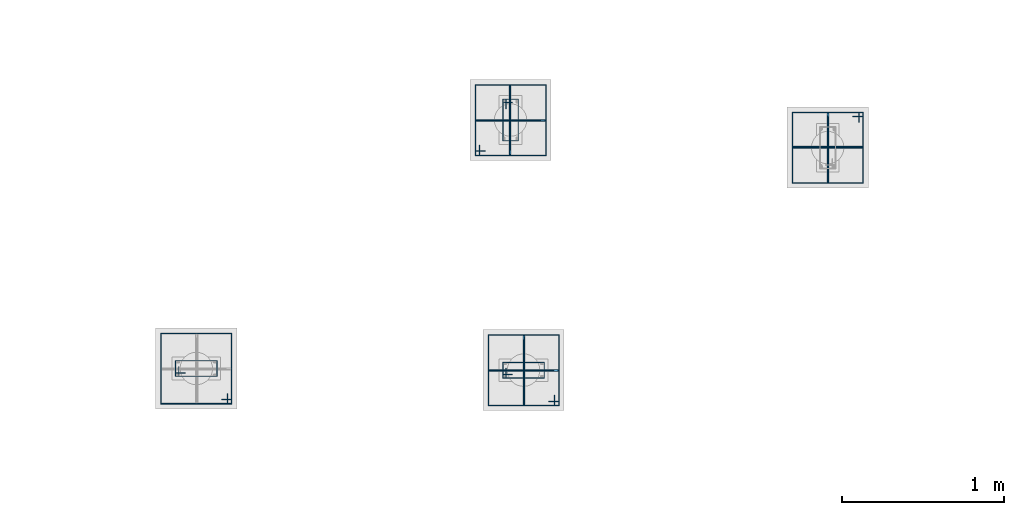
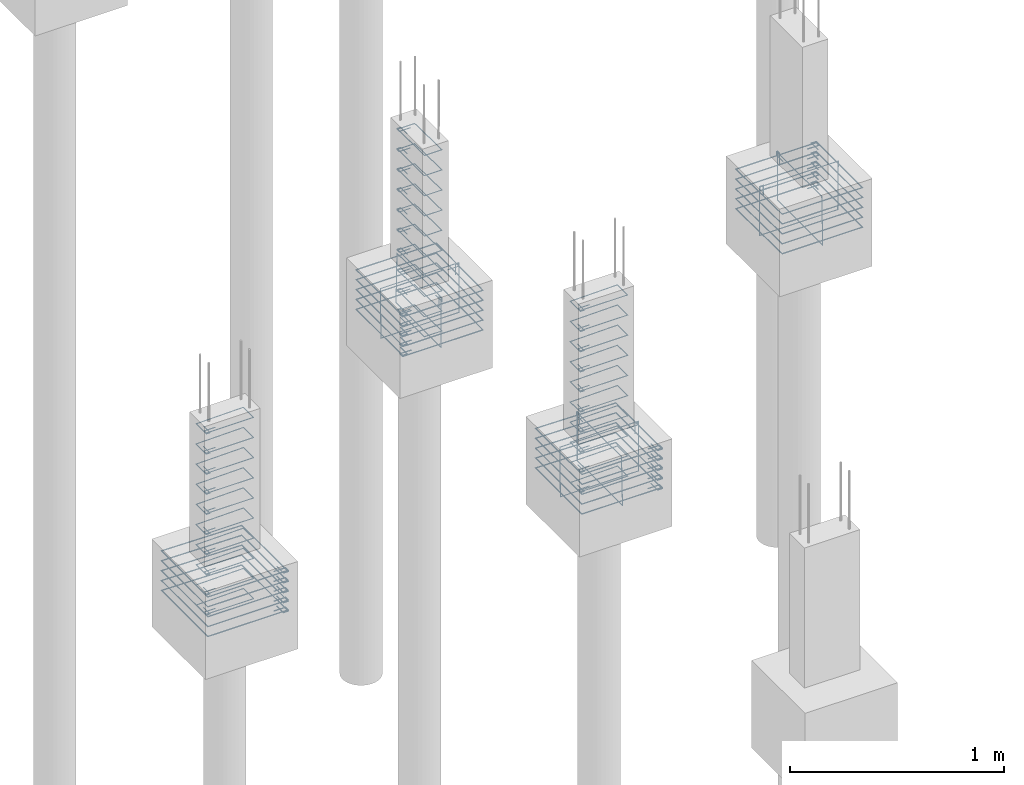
# One storey, part 82 of 119: 56 reinforcing bars.
"""IFC4 building model written with IfcOpenShell, lengths in centimetres."""

from ifc_helpers import new_model, entity, si_unit, derived_unit, frame, origin_with_axes, place, context, project, spatial, source, transform, mapped, element, save


model = new_model("IFC4")

# Units and contexts
model_context = context("Model", 3, precision=1e-05, world=origin_with_axes(), identifier="Body")
ifc_project = project(units=[si_unit("LENGTHUNIT", "METRE", prefix="CENTI"), si_unit("VOLUMEUNIT", "CUBIC_METRE"), si_unit("AREAUNIT", "SQUARE_METRE"), si_unit("POWERUNIT", "WATT"), si_unit("LUMINOUSFLUXUNIT", "LUMEN"), si_unit("ELECTRICCURRENTUNIT", "AMPERE"), si_unit("PRESSUREUNIT", "PASCAL", prefix="KILO"), si_unit("MASSUNIT", "GRAM", prefix="KILO"), si_unit("PLANEANGLEUNIT", "RADIAN"), derived_unit("VOLUMETRICFLOWRATEUNIT", [(si_unit("LENGTHUNIT", "METRE"), 3), (si_unit("TIMEUNIT", "SECOND"), -1)])], contexts=[model_context])

# Site, building, storey
site_placement = place(None, frame((-4000.0, 0.0, 0.0), z_axis=(0.0, 0.0, 1.0), x_axis=(1.0, 0.0, 0.0)))
site = spatial("IfcSite", under=ifc_project, at=site_placement, Name="PADRÃO")
building_placement = place(site_placement, frame((0.0, 0.0, -14.0)))
building = spatial("IfcBuilding", under=site, at=building_placement, Name="CRECHE PRÉ-ESCOLA TIPO 2")
storey_placement = place(building_placement, origin_with_axes())
storey = spatial("IfcBuildingStorey", under=building, at=storey_placement, Name="FUNDAÇÃO", CompositionType="ELEMENT", Elevation=-14.0)

# Reinforcing bars
shared_shape_1 = source(origin_with_axes(), model_context, "Body", "AdvancedSweptSolid", [
    entity("IfcSweptDiskSolid", entity("IfcCompositeCurve", [entity("IfcCompositeCurveSegment", "CONTINUOUS", True, entity("IfcPolyline", [entity("IfcCartesianPoint", [4.25, 21.75, 0.0]), entity("IfcCartesianPoint", [4.25, 27.75, 0.0])])), entity("IfcCompositeCurveSegment", "CONTINUOUS", True, entity("IfcPolyline", [entity("IfcCartesianPoint", [4.25, 27.75, 0.0]), entity("IfcCartesianPoint", [2.25, 27.75, 0.0])])), entity("IfcCompositeCurveSegment", "CONTINUOUS", True, entity("IfcPolyline", [entity("IfcCartesianPoint", [2.25, 27.75, 0.0]), entity("IfcCartesianPoint", [2.25, 2.25, 0.0])])), entity("IfcCompositeCurveSegment", "CONTINUOUS", True, entity("IfcPolyline", [entity("IfcCartesianPoint", [2.25, 2.25, 0.0]), entity("IfcCartesianPoint", [11.75, 2.25, 0.0])])), entity("IfcCompositeCurveSegment", "CONTINUOUS", True, entity("IfcPolyline", [entity("IfcCartesianPoint", [11.75, 2.25, 0.0]), entity("IfcCartesianPoint", [11.75, 27.75, -0.5])])), entity("IfcCompositeCurveSegment", "CONTINUOUS", True, entity("IfcPolyline", [entity("IfcCartesianPoint", [11.75, 27.75, -0.5]), entity("IfcCartesianPoint", [2.25, 27.75, -0.5])])), entity("IfcCompositeCurveSegment", "CONTINUOUS", True, entity("IfcPolyline", [entity("IfcCartesianPoint", [2.25, 27.75, -0.5]), entity("IfcCartesianPoint", [2.25, 25.75, -0.5])])), entity("IfcCompositeCurveSegment", "CONTINUOUS", True, entity("IfcPolyline", [entity("IfcCartesianPoint", [2.25, 25.75, -0.5]), entity("IfcCartesianPoint", [8.25, 25.75, -0.5])]))], False), 0.25),
])
for number, where, z_axis, x_axis, name in (
    (1, (2936.24, 1391.51, -5.75), (0.0, 0.0, 1.0), (1.0, 0.0, 0.0), "P104 - Estribo"),
    (2, (2936.24, 1391.51, -63.25), (0.0, 0.0, 1.0), (1.0, 0.0, 0.0), "P104 - Estribo"),
    (3, (2936.24, 1391.51, -74.75), (0.0, 0.0, 1.0), (1.0, 0.0, 0.0), "P104 - Estribo"),
    (4, (2936.24, 1391.51, -86.25), (0.0, 0.0, 1.0), (1.0, 0.0, 0.0), "P104 - Estribo"),
    (5, (2936.24, 1391.51, -97.75), (0.0, 0.0, 1.0), (1.0, 0.0, 0.0), "P104 - Estribo"),
    (6, (2936.24, 1391.51, -109.25), (0.0, 0.0, 1.0), (1.0, 0.0, 0.0), "P104 - Estribo"),
    (7, (2936.24, 1391.51, -28.75), (0.0, 0.0, 1.0), (1.0, 0.0, 0.0), "P104 - Estribo"),
    (8, (2936.24, 1391.51, -40.25), (0.0, 0.0, 1.0), (1.0, 0.0, 0.0), "P104 - Estribo"),
    (9, (2936.24, 1391.51, -51.75), (0.0, 0.0, 1.0), (1.0, 0.0, 0.0), "P104 - Estribo"),
    (10, (2936.24, 1391.51, -17.25), (0.0, 0.0, 1.0), (1.0, 0.0, 0.0), "P104 - Estribo"),
):
    element("IfcReinforcingBar", number, at=place(storey_placement, frame(where, z_axis=z_axis, x_axis=x_axis)), inside=storey, Name=name, BarLength=0.0, CrossSectionArea=1.9634954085e-05, NominalDiameter=0.5, PredefinedType="MAIN", context=model_context, shape_type="MappedRepresentation", body=[
        mapped(shared_shape_1, transform((0.0, 0.0, 0.0), scale=1.0)),
    ])
shared_shape_2 = source(origin_with_axes(), model_context, "Body", "AdvancedSweptSolid", [
    entity("IfcSweptDiskSolid", entity("IfcCompositeCurve", [entity("IfcCompositeCurveSegment", "CONTINUOUS", True, entity("IfcPolyline", [entity("IfcCartesianPoint", [2927.815, 1387.345, 0.0]), entity("IfcCartesianPoint", [2921.555, 1387.345, 0.0])])), entity("IfcCompositeCurveSegment", "CONTINUOUS", True, entity("IfcPolyline", [entity("IfcCartesianPoint", [2921.555, 1387.345, 0.0]), entity("IfcCartesianPoint", [2921.555, 1384.825, 0.0])])), entity("IfcCompositeCurveSegment", "CONTINUOUS", True, entity("IfcPolyline", [entity("IfcCartesianPoint", [2921.555, 1384.825, 0.0]), entity("IfcCartesianPoint", [2964.925, 1384.825, 0.0])])), entity("IfcCompositeCurveSegment", "CONTINUOUS", True, entity("IfcPolyline", [entity("IfcCartesianPoint", [2964.925, 1384.825, 0.0]), entity("IfcCartesianPoint", [2964.925, 1428.195, 0.63])])), entity("IfcCompositeCurveSegment", "CONTINUOUS", True, entity("IfcPolyline", [entity("IfcCartesianPoint", [2964.925, 1428.195, 0.63]), entity("IfcCartesianPoint", [2921.555, 1428.195, 0.63])])), entity("IfcCompositeCurveSegment", "CONTINUOUS", True, entity("IfcPolyline", [entity("IfcCartesianPoint", [2921.555, 1428.195, 0.63]), entity("IfcCartesianPoint", [2921.555, 1384.825, 0.63])])), entity("IfcCompositeCurveSegment", "CONTINUOUS", True, entity("IfcPolyline", [entity("IfcCartesianPoint", [2921.555, 1384.825, 0.63]), entity("IfcCartesianPoint", [2924.075, 1384.825, 0.63])])), entity("IfcCompositeCurveSegment", "CONTINUOUS", True, entity("IfcPolyline", [entity("IfcCartesianPoint", [2924.075, 1384.825, 0.63]), entity("IfcCartesianPoint", [2924.075, 1391.085, 0.63])]))], False), 0.315),
])
for number, where, z_axis, x_axis, name in (
    (11, (0.0, 0.0, -92.225), (0.0, 0.0, 1.0), (1.0, 0.0, 0.0), "P104 - Blocos (estribos)"),
    (12, (0.0, 0.0, -109.175), (0.0, 0.0, 1.0), (1.0, 0.0, 0.0), "P104 - Blocos (estribos)"),
    (13, (0.0, 0.0, -86.575), (0.0, 0.0, 1.0), (1.0, 0.0, 0.0), "P104 - Blocos (estribos)"),
    (14, (0.0, 0.0, -103.525), (0.0, 0.0, 1.0), (1.0, 0.0, 0.0), "P104 - Blocos (estribos)"),
    (15, (0.0, 0.0, -97.875), (0.0, 0.0, 1.0), (1.0, 0.0, 0.0), "P104 - Blocos (estribos)"),
):
    element("IfcReinforcingBar", number, at=place(storey_placement, frame(where, z_axis=z_axis, x_axis=x_axis)), inside=storey, Name=name, BarLength=0.0, CrossSectionArea=3.1172453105e-05, NominalDiameter=0.63, PredefinedType="MAIN", context=model_context, shape_type="MappedRepresentation", body=[
        mapped(shared_shape_2, transform((0.0, 0.0, 0.0), scale=1.0)),
    ])
shared_shape_3 = source(origin_with_axes(), model_context, "Body", "AdvancedSweptSolid", [
    entity("IfcSweptDiskSolid", entity("IfcCompositeCurve", [entity("IfcCompositeCurveSegment", "CONTINUOUS", True, entity("IfcPolyline", [entity("IfcCartesianPoint", [-15.12, -12.0, 0.0]), entity("IfcCartesianPoint", [-21.12, -12.0, 0.0])])), entity("IfcCompositeCurveSegment", "CONTINUOUS", True, entity("IfcPolyline", [entity("IfcCartesianPoint", [-21.12, -12.0, 0.0]), entity("IfcCartesianPoint", [-21.12, -14.0, 0.0])])), entity("IfcCompositeCurveSegment", "CONTINUOUS", True, entity("IfcPolyline", [entity("IfcCartesianPoint", [-21.12, -14.0, 0.0]), entity("IfcCartesianPoint", [21.12, -14.0, 0.0])])), entity("IfcCompositeCurveSegment", "CONTINUOUS", True, entity("IfcPolyline", [entity("IfcCartesianPoint", [21.12, -14.0, 0.0]), entity("IfcCartesianPoint", [21.12, 14.0, 0.5])])), entity("IfcCompositeCurveSegment", "CONTINUOUS", True, entity("IfcPolyline", [entity("IfcCartesianPoint", [21.12, 14.0, 0.5]), entity("IfcCartesianPoint", [-21.12, 14.0, 0.5])])), entity("IfcCompositeCurveSegment", "CONTINUOUS", True, entity("IfcPolyline", [entity("IfcCartesianPoint", [-21.12, 14.0, 0.5]), entity("IfcCartesianPoint", [-21.12, -14.0, 0.5])])), entity("IfcCompositeCurveSegment", "CONTINUOUS", True, entity("IfcPolyline", [entity("IfcCartesianPoint", [-21.12, -14.0, 0.5]), entity("IfcCartesianPoint", [-19.12, -14.0, 0.5])])), entity("IfcCompositeCurveSegment", "CONTINUOUS", True, entity("IfcPolyline", [entity("IfcCartesianPoint", [-19.12, -14.0, 0.5]), entity("IfcCartesianPoint", [-19.12, -8.0, 0.5])]))], False), 0.25),
])
reinforcing_bar_1_placement = place(storey_placement, frame((2943.24, 1406.51, -97.75), z_axis=(-1.0, 0.0, 0.0), x_axis=(0.0, 1.0, 0.0)))
element("IfcReinforcingBar", 16, at=reinforcing_bar_1_placement, inside=storey, Name="P104 - Blocos (estribos)", BarLength=0.0, CrossSectionArea=1.9634954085e-05, NominalDiameter=0.5, PredefinedType="MAIN", context=model_context, shape_type="MappedRepresentation", body=[
    mapped(shared_shape_3, transform((0.0, 0.0, 0.0), scale=1.0)),
])
shared_shape_4 = source(origin_with_axes(), model_context, "Body", "AdvancedSweptSolid", [
    entity("IfcSweptDiskSolid", entity("IfcCompositeCurve", [entity("IfcCompositeCurveSegment", "CONTINUOUS", True, entity("IfcPolyline", [entity("IfcCartesianPoint", [-15.12, -12.0, 0.0]), entity("IfcCartesianPoint", [-21.12, -12.0, 0.0])])), entity("IfcCompositeCurveSegment", "CONTINUOUS", True, entity("IfcPolyline", [entity("IfcCartesianPoint", [-21.12, -12.0, 0.0]), entity("IfcCartesianPoint", [-21.12, -14.0, 0.0])])), entity("IfcCompositeCurveSegment", "CONTINUOUS", True, entity("IfcPolyline", [entity("IfcCartesianPoint", [-21.12, -14.0, 0.0]), entity("IfcCartesianPoint", [21.12, -14.0, 0.0])])), entity("IfcCompositeCurveSegment", "CONTINUOUS", True, entity("IfcPolyline", [entity("IfcCartesianPoint", [21.12, -14.0, 0.0]), entity("IfcCartesianPoint", [21.12, 14.0, 0.5])])), entity("IfcCompositeCurveSegment", "CONTINUOUS", True, entity("IfcPolyline", [entity("IfcCartesianPoint", [21.12, 14.0, 0.5]), entity("IfcCartesianPoint", [-21.12, 14.0, 0.5])])), entity("IfcCompositeCurveSegment", "CONTINUOUS", True, entity("IfcPolyline", [entity("IfcCartesianPoint", [-21.12, 14.0, 0.5]), entity("IfcCartesianPoint", [-21.12, -14.0, 0.5])])), entity("IfcCompositeCurveSegment", "CONTINUOUS", True, entity("IfcPolyline", [entity("IfcCartesianPoint", [-21.12, -14.0, 0.5]), entity("IfcCartesianPoint", [-19.12, -14.0, 0.5])])), entity("IfcCompositeCurveSegment", "CONTINUOUS", True, entity("IfcPolyline", [entity("IfcCartesianPoint", [-19.12, -14.0, 0.5]), entity("IfcCartesianPoint", [-19.12, -8.0, 0.5])]))], False), 0.25),
])
reinforcing_bar_2_placement = place(storey_placement, frame((2943.24, 1406.51, -97.75), z_axis=(0.0, -1.0, 0.0), x_axis=(-1.0, 0.0, 0.0)))
element("IfcReinforcingBar", 17, at=reinforcing_bar_2_placement, inside=storey, Name="P104 - Blocos (estribos)", BarLength=0.0, CrossSectionArea=1.9634954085e-05, NominalDiameter=0.5, PredefinedType="MAIN", context=model_context, shape_type="MappedRepresentation", body=[
    mapped(shared_shape_4, transform((0.0, 0.0, 0.0), scale=1.0)),
])
shared_shape_5 = source(origin_with_axes(), model_context, "Body", "AdvancedSweptSolid", [
    entity("IfcSweptDiskSolid", entity("IfcCompositeCurve", [entity("IfcCompositeCurveSegment", "CONTINUOUS", True, entity("IfcPolyline", [entity("IfcCartesianPoint", [4.25, 21.75, 0.0]), entity("IfcCartesianPoint", [4.25, 27.75, 0.0])])), entity("IfcCompositeCurveSegment", "CONTINUOUS", True, entity("IfcPolyline", [entity("IfcCartesianPoint", [4.25, 27.75, 0.0]), entity("IfcCartesianPoint", [2.25, 27.75, 0.0])])), entity("IfcCompositeCurveSegment", "CONTINUOUS", True, entity("IfcPolyline", [entity("IfcCartesianPoint", [2.25, 27.75, 0.0]), entity("IfcCartesianPoint", [2.25, 2.25, 0.0])])), entity("IfcCompositeCurveSegment", "CONTINUOUS", True, entity("IfcPolyline", [entity("IfcCartesianPoint", [2.25, 2.25, 0.0]), entity("IfcCartesianPoint", [11.75, 2.25, 0.0])])), entity("IfcCompositeCurveSegment", "CONTINUOUS", True, entity("IfcPolyline", [entity("IfcCartesianPoint", [11.75, 2.25, 0.0]), entity("IfcCartesianPoint", [11.75, 27.75, -0.5])])), entity("IfcCompositeCurveSegment", "CONTINUOUS", True, entity("IfcPolyline", [entity("IfcCartesianPoint", [11.75, 27.75, -0.5]), entity("IfcCartesianPoint", [2.25, 27.75, -0.5])])), entity("IfcCompositeCurveSegment", "CONTINUOUS", True, entity("IfcPolyline", [entity("IfcCartesianPoint", [2.25, 27.75, -0.5]), entity("IfcCartesianPoint", [2.25, 25.75, -0.5])])), entity("IfcCompositeCurveSegment", "CONTINUOUS", True, entity("IfcPolyline", [entity("IfcCartesianPoint", [2.25, 25.75, -0.5]), entity("IfcCartesianPoint", [8.25, 25.75, -0.5])]))], False), 0.25),
])
for number, where, z_axis, x_axis, name in (
    (18, (2966.24, 1245.52, -5.75), (0.0, 0.0, 1.0), (0.0, 1.0, 0.0), "P112 - Estribo"),
    (19, (2966.24, 1245.52, -28.75), (0.0, 0.0, 1.0), (0.0, 1.0, 0.0), "P112 - Estribo"),
    (20, (2966.24, 1245.52, -109.25), (0.0, 0.0, 1.0), (0.0, 1.0, 0.0), "P112 - Estribo"),
    (21, (2966.24, 1245.52, -97.75), (0.0, 0.0, 1.0), (0.0, 1.0, 0.0), "P112 - Estribo"),
    (22, (2966.24, 1245.52, -86.25), (0.0, 0.0, 1.0), (0.0, 1.0, 0.0), "P112 - Estribo"),
    (23, (2966.24, 1245.52, -74.75), (0.0, 0.0, 1.0), (0.0, 1.0, 0.0), "P112 - Estribo"),
    (24, (2966.24, 1245.52, -17.25), (0.0, 0.0, 1.0), (0.0, 1.0, 0.0), "P112 - Estribo"),
    (25, (2966.24, 1245.52, -63.25), (0.0, 0.0, 1.0), (0.0, 1.0, 0.0), "P112 - Estribo"),
    (26, (2966.24, 1245.52, -51.75), (0.0, 0.0, 1.0), (0.0, 1.0, 0.0), "P112 - Estribo"),
    (27, (2966.24, 1245.52, -40.25), (0.0, 0.0, 1.0), (0.0, 1.0, 0.0), "P112 - Estribo"),
):
    element("IfcReinforcingBar", number, at=place(storey_placement, frame(where, z_axis=z_axis, x_axis=x_axis)), inside=storey, Name=name, BarLength=0.0, CrossSectionArea=1.9634954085e-05, NominalDiameter=0.5, PredefinedType="MAIN", context=model_context, shape_type="MappedRepresentation", body=[
        mapped(shared_shape_5, transform((0.0, 0.0, 0.0), scale=1.0)),
    ])
shared_shape_6 = source(origin_with_axes(), model_context, "Body", "AdvancedSweptSolid", [
    entity("IfcSweptDiskSolid", entity("IfcCompositeCurve", [entity("IfcCompositeCurveSegment", "CONTINUOUS", True, entity("IfcPolyline", [entity("IfcCartesianPoint", [2970.405, 1237.095, 0.0]), entity("IfcCartesianPoint", [2970.405, 1230.835, 0.0])])), entity("IfcCompositeCurveSegment", "CONTINUOUS", True, entity("IfcPolyline", [entity("IfcCartesianPoint", [2970.405, 1230.835, 0.0]), entity("IfcCartesianPoint", [2972.925, 1230.835, 0.0])])), entity("IfcCompositeCurveSegment", "CONTINUOUS", True, entity("IfcPolyline", [entity("IfcCartesianPoint", [2972.925, 1230.835, 0.0]), entity("IfcCartesianPoint", [2972.925, 1274.205, 0.0])])), entity("IfcCompositeCurveSegment", "CONTINUOUS", True, entity("IfcPolyline", [entity("IfcCartesianPoint", [2972.925, 1274.205, 0.0]), entity("IfcCartesianPoint", [2929.555, 1274.205, 0.63])])), entity("IfcCompositeCurveSegment", "CONTINUOUS", True, entity("IfcPolyline", [entity("IfcCartesianPoint", [2929.555, 1274.205, 0.63]), entity("IfcCartesianPoint", [2929.555, 1230.835, 0.63])])), entity("IfcCompositeCurveSegment", "CONTINUOUS", True, entity("IfcPolyline", [entity("IfcCartesianPoint", [2929.555, 1230.835, 0.63]), entity("IfcCartesianPoint", [2972.925, 1230.835, 0.63])])), entity("IfcCompositeCurveSegment", "CONTINUOUS", True, entity("IfcPolyline", [entity("IfcCartesianPoint", [2972.925, 1230.835, 0.63]), entity("IfcCartesianPoint", [2972.925, 1233.355, 0.63])])), entity("IfcCompositeCurveSegment", "CONTINUOUS", True, entity("IfcPolyline", [entity("IfcCartesianPoint", [2972.925, 1233.355, 0.63]), entity("IfcCartesianPoint", [2966.665, 1233.355, 0.63])]))], False), 0.315),
])
for number, where, z_axis, x_axis, name in (
    (28, (0.0, 0.0, -109.175), (0.0, 0.0, 1.0), (1.0, 0.0, 0.0), "P112 - Blocos (estribos)"),
    (29, (0.0, 0.0, -103.525), (0.0, 0.0, 1.0), (1.0, 0.0, 0.0), "P112 - Blocos (estribos)"),
    (30, (0.0, 0.0, -97.875), (0.0, 0.0, 1.0), (1.0, 0.0, 0.0), "P112 - Blocos (estribos)"),
    (31, (0.0, 0.0, -92.225), (0.0, 0.0, 1.0), (1.0, 0.0, 0.0), "P112 - Blocos (estribos)"),
    (32, (0.0, 0.0, -86.575), (0.0, 0.0, 1.0), (1.0, 0.0, 0.0), "P112 - Blocos (estribos)"),
):
    element("IfcReinforcingBar", number, at=place(storey_placement, frame(where, z_axis=z_axis, x_axis=x_axis)), inside=storey, Name=name, BarLength=0.0, CrossSectionArea=3.1172453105e-05, NominalDiameter=0.63, PredefinedType="MAIN", context=model_context, shape_type="MappedRepresentation", body=[
        mapped(shared_shape_6, transform((0.0, 0.0, 0.0), scale=1.0)),
    ])
shared_shape_7 = source(origin_with_axes(), model_context, "Body", "AdvancedSweptSolid", [
    entity("IfcSweptDiskSolid", entity("IfcCompositeCurve", [entity("IfcCompositeCurveSegment", "CONTINUOUS", True, entity("IfcPolyline", [entity("IfcCartesianPoint", [-15.12, -12.0, 0.0]), entity("IfcCartesianPoint", [-21.12, -12.0, 0.0])])), entity("IfcCompositeCurveSegment", "CONTINUOUS", True, entity("IfcPolyline", [entity("IfcCartesianPoint", [-21.12, -12.0, 0.0]), entity("IfcCartesianPoint", [-21.12, -14.0, 0.0])])), entity("IfcCompositeCurveSegment", "CONTINUOUS", True, entity("IfcPolyline", [entity("IfcCartesianPoint", [-21.12, -14.0, 0.0]), entity("IfcCartesianPoint", [21.12, -14.0, 0.0])])), entity("IfcCompositeCurveSegment", "CONTINUOUS", True, entity("IfcPolyline", [entity("IfcCartesianPoint", [21.12, -14.0, 0.0]), entity("IfcCartesianPoint", [21.12, 14.0, 0.5])])), entity("IfcCompositeCurveSegment", "CONTINUOUS", True, entity("IfcPolyline", [entity("IfcCartesianPoint", [21.12, 14.0, 0.5]), entity("IfcCartesianPoint", [-21.12, 14.0, 0.5])])), entity("IfcCompositeCurveSegment", "CONTINUOUS", True, entity("IfcPolyline", [entity("IfcCartesianPoint", [-21.12, 14.0, 0.5]), entity("IfcCartesianPoint", [-21.12, -14.0, 0.5])])), entity("IfcCompositeCurveSegment", "CONTINUOUS", True, entity("IfcPolyline", [entity("IfcCartesianPoint", [-21.12, -14.0, 0.5]), entity("IfcCartesianPoint", [-19.12, -14.0, 0.5])])), entity("IfcCompositeCurveSegment", "CONTINUOUS", True, entity("IfcPolyline", [entity("IfcCartesianPoint", [-19.12, -14.0, 0.5]), entity("IfcCartesianPoint", [-19.12, -8.0, 0.5])]))], False), 0.25),
])
reinforcing_bar_3_placement = place(storey_placement, frame((2951.24, 1252.52, -97.75), z_axis=(0.0, -1.0, 0.0), x_axis=(-1.0, 0.0, 0.0)))
element("IfcReinforcingBar", 33, at=reinforcing_bar_3_placement, inside=storey, Name="P112 - Blocos (estribos)", BarLength=0.0, CrossSectionArea=1.9634954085e-05, NominalDiameter=0.5, PredefinedType="MAIN", context=model_context, shape_type="MappedRepresentation", body=[
    mapped(shared_shape_7, transform((0.0, 0.0, 0.0), scale=1.0)),
])
shared_shape_8 = source(origin_with_axes(), model_context, "Body", "AdvancedSweptSolid", [
    entity("IfcSweptDiskSolid", entity("IfcCompositeCurve", [entity("IfcCompositeCurveSegment", "CONTINUOUS", True, entity("IfcPolyline", [entity("IfcCartesianPoint", [-15.12, -12.0, 0.0]), entity("IfcCartesianPoint", [-21.12, -12.0, 0.0])])), entity("IfcCompositeCurveSegment", "CONTINUOUS", True, entity("IfcPolyline", [entity("IfcCartesianPoint", [-21.12, -12.0, 0.0]), entity("IfcCartesianPoint", [-21.12, -14.0, 0.0])])), entity("IfcCompositeCurveSegment", "CONTINUOUS", True, entity("IfcPolyline", [entity("IfcCartesianPoint", [-21.12, -14.0, 0.0]), entity("IfcCartesianPoint", [21.12, -14.0, 0.0])])), entity("IfcCompositeCurveSegment", "CONTINUOUS", True, entity("IfcPolyline", [entity("IfcCartesianPoint", [21.12, -14.0, 0.0]), entity("IfcCartesianPoint", [21.12, 14.0, 0.5])])), entity("IfcCompositeCurveSegment", "CONTINUOUS", True, entity("IfcPolyline", [entity("IfcCartesianPoint", [21.12, 14.0, 0.5]), entity("IfcCartesianPoint", [-21.12, 14.0, 0.5])])), entity("IfcCompositeCurveSegment", "CONTINUOUS", True, entity("IfcPolyline", [entity("IfcCartesianPoint", [-21.12, 14.0, 0.5]), entity("IfcCartesianPoint", [-21.12, -14.0, 0.5])])), entity("IfcCompositeCurveSegment", "CONTINUOUS", True, entity("IfcPolyline", [entity("IfcCartesianPoint", [-21.12, -14.0, 0.5]), entity("IfcCartesianPoint", [-19.12, -14.0, 0.5])])), entity("IfcCompositeCurveSegment", "CONTINUOUS", True, entity("IfcPolyline", [entity("IfcCartesianPoint", [-19.12, -14.0, 0.5]), entity("IfcCartesianPoint", [-19.12, -8.0, 0.5])]))], False), 0.25),
])
reinforcing_bar_4_placement = place(storey_placement, frame((2951.24, 1252.52, -97.75), z_axis=(1.0, 0.0, 0.0), x_axis=(0.0, -1.0, 0.0)))
element("IfcReinforcingBar", 34, at=reinforcing_bar_4_placement, inside=storey, Name="P112 - Blocos (estribos)", BarLength=0.0, CrossSectionArea=1.9634954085e-05, NominalDiameter=0.5, PredefinedType="MAIN", context=model_context, shape_type="MappedRepresentation", body=[
    mapped(shared_shape_8, transform((0.0, 0.0, 0.0), scale=1.0)),
])
shared_shape_9 = source(origin_with_axes(), model_context, "Body", "AdvancedSweptSolid", [
    entity("IfcSweptDiskSolid", entity("IfcCompositeCurve", [entity("IfcCompositeCurveSegment", "CONTINUOUS", True, entity("IfcPolyline", [entity("IfcCartesianPoint", [4.25, 21.75, 0.0]), entity("IfcCartesianPoint", [4.25, 27.75, 0.0])])), entity("IfcCompositeCurveSegment", "CONTINUOUS", True, entity("IfcPolyline", [entity("IfcCartesianPoint", [4.25, 27.75, 0.0]), entity("IfcCartesianPoint", [2.25, 27.75, 0.0])])), entity("IfcCompositeCurveSegment", "CONTINUOUS", True, entity("IfcPolyline", [entity("IfcCartesianPoint", [2.25, 27.75, 0.0]), entity("IfcCartesianPoint", [2.25, 2.25, 0.0])])), entity("IfcCompositeCurveSegment", "CONTINUOUS", True, entity("IfcPolyline", [entity("IfcCartesianPoint", [2.25, 2.25, 0.0]), entity("IfcCartesianPoint", [11.75, 2.25, 0.0])])), entity("IfcCompositeCurveSegment", "CONTINUOUS", True, entity("IfcPolyline", [entity("IfcCartesianPoint", [11.75, 2.25, 0.0]), entity("IfcCartesianPoint", [11.75, 27.75, -0.5])])), entity("IfcCompositeCurveSegment", "CONTINUOUS", True, entity("IfcPolyline", [entity("IfcCartesianPoint", [11.75, 27.75, -0.5]), entity("IfcCartesianPoint", [2.25, 27.75, -0.5])])), entity("IfcCompositeCurveSegment", "CONTINUOUS", True, entity("IfcPolyline", [entity("IfcCartesianPoint", [2.25, 27.75, -0.5]), entity("IfcCartesianPoint", [2.25, 25.75, -0.5])])), entity("IfcCompositeCurveSegment", "CONTINUOUS", True, entity("IfcPolyline", [entity("IfcCartesianPoint", [2.25, 25.75, -0.5]), entity("IfcCartesianPoint", [8.25, 25.75, -0.5])]))], False), 0.25),
])
for number, where, z_axis, x_axis, name in (
    (35, (2764.74, 1246.51, -63.25), (0.0, 0.0, 1.0), (0.0, 1.0, 0.0), "P111 - Estribo"),
    (36, (2764.74, 1246.51, -97.75), (0.0, 0.0, 1.0), (0.0, 1.0, 0.0), "P111 - Estribo"),
    (37, (2764.74, 1246.51, -86.25), (0.0, 0.0, 1.0), (0.0, 1.0, 0.0), "P111 - Estribo"),
    (38, (2764.74, 1246.51, -74.75), (0.0, 0.0, 1.0), (0.0, 1.0, 0.0), "P111 - Estribo"),
    (39, (2764.74, 1246.51, -5.75), (0.0, 0.0, 1.0), (0.0, 1.0, 0.0), "P111 - Estribo"),
    (40, (2764.74, 1246.51, -17.25), (0.0, 0.0, 1.0), (0.0, 1.0, 0.0), "P111 - Estribo"),
    (41, (2764.74, 1246.51, -28.75), (0.0, 0.0, 1.0), (0.0, 1.0, 0.0), "P111 - Estribo"),
    (42, (2764.74, 1246.51, -40.25), (0.0, 0.0, 1.0), (0.0, 1.0, 0.0), "P111 - Estribo"),
    (43, (2764.74, 1246.51, -51.75), (0.0, 0.0, 1.0), (0.0, 1.0, 0.0), "P111 - Estribo"),
    (44, (2764.74, 1246.51, -109.25), (0.0, 0.0, 1.0), (0.0, 1.0, 0.0), "P111 - Estribo"),
):
    element("IfcReinforcingBar", number, at=place(storey_placement, frame(where, z_axis=z_axis, x_axis=x_axis)), inside=storey, Name=name, BarLength=0.0, CrossSectionArea=1.9634954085e-05, NominalDiameter=0.5, PredefinedType="MAIN", context=model_context, shape_type="MappedRepresentation", body=[
        mapped(shared_shape_9, transform((0.0, 0.0, 0.0), scale=1.0)),
    ])
shared_shape_10 = source(origin_with_axes(), model_context, "Body", "AdvancedSweptSolid", [
    entity("IfcSweptDiskSolid", entity("IfcCompositeCurve", [entity("IfcCompositeCurveSegment", "CONTINUOUS", True, entity("IfcPolyline", [entity("IfcCartesianPoint", [2768.905, 1238.085, 0.0]), entity("IfcCartesianPoint", [2768.905, 1231.825, 0.0])])), entity("IfcCompositeCurveSegment", "CONTINUOUS", True, entity("IfcPolyline", [entity("IfcCartesianPoint", [2768.905, 1231.825, 0.0]), entity("IfcCartesianPoint", [2771.425, 1231.825, 0.0])])), entity("IfcCompositeCurveSegment", "CONTINUOUS", True, entity("IfcPolyline", [entity("IfcCartesianPoint", [2771.425, 1231.825, 0.0]), entity("IfcCartesianPoint", [2771.425, 1275.195, 0.0])])), entity("IfcCompositeCurveSegment", "CONTINUOUS", True, entity("IfcPolyline", [entity("IfcCartesianPoint", [2771.425, 1275.195, 0.0]), entity("IfcCartesianPoint", [2728.055, 1275.195, 0.63])])), entity("IfcCompositeCurveSegment", "CONTINUOUS", True, entity("IfcPolyline", [entity("IfcCartesianPoint", [2728.055, 1275.195, 0.63]), entity("IfcCartesianPoint", [2728.055, 1231.825, 0.63])])), entity("IfcCompositeCurveSegment", "CONTINUOUS", True, entity("IfcPolyline", [entity("IfcCartesianPoint", [2728.055, 1231.825, 0.63]), entity("IfcCartesianPoint", [2771.425, 1231.825, 0.63])])), entity("IfcCompositeCurveSegment", "CONTINUOUS", True, entity("IfcPolyline", [entity("IfcCartesianPoint", [2771.425, 1231.825, 0.63]), entity("IfcCartesianPoint", [2771.425, 1234.345, 0.63])])), entity("IfcCompositeCurveSegment", "CONTINUOUS", True, entity("IfcPolyline", [entity("IfcCartesianPoint", [2771.425, 1234.345, 0.63]), entity("IfcCartesianPoint", [2765.165, 1234.345, 0.63])]))], False), 0.315),
])
for number, where, z_axis, x_axis, name in (
    (45, (0.0, 0.0, -86.575), (0.0, 0.0, 1.0), (1.0, 0.0, 0.0), "P111 - Blocos (estribos)"),
    (46, (0.0, 0.0, -92.225), (0.0, 0.0, 1.0), (1.0, 0.0, 0.0), "P111 - Blocos (estribos)"),
    (47, (0.0, 0.0, -97.875), (0.0, 0.0, 1.0), (1.0, 0.0, 0.0), "P111 - Blocos (estribos)"),
    (48, (0.0, 0.0, -109.175), (0.0, 0.0, 1.0), (1.0, 0.0, 0.0), "P111 - Blocos (estribos)"),
    (49, (0.0, 0.0, -103.525), (0.0, 0.0, 1.0), (1.0, 0.0, 0.0), "P111 - Blocos (estribos)"),
):
    element("IfcReinforcingBar", number, at=place(storey_placement, frame(where, z_axis=z_axis, x_axis=x_axis)), inside=storey, Name=name, BarLength=0.0, CrossSectionArea=3.1172453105e-05, NominalDiameter=0.63, PredefinedType="MAIN", context=model_context, shape_type="MappedRepresentation", body=[
        mapped(shared_shape_10, transform((0.0, 0.0, 0.0), scale=1.0)),
    ])
shared_shape_11 = source(origin_with_axes(), model_context, "Body", "AdvancedSweptSolid", [
    entity("IfcSweptDiskSolid", entity("IfcCompositeCurve", [entity("IfcCompositeCurveSegment", "CONTINUOUS", True, entity("IfcPolyline", [entity("IfcCartesianPoint", [3153.925, 1408.685, 0.0]), entity("IfcCartesianPoint", [3160.185, 1408.685, 0.0])])), entity("IfcCompositeCurveSegment", "CONTINUOUS", True, entity("IfcPolyline", [entity("IfcCartesianPoint", [3160.185, 1408.685, 0.0]), entity("IfcCartesianPoint", [3160.185, 1411.205, 0.0])])), entity("IfcCompositeCurveSegment", "CONTINUOUS", True, entity("IfcPolyline", [entity("IfcCartesianPoint", [3160.185, 1411.205, 0.0]), entity("IfcCartesianPoint", [3116.815, 1411.205, 0.0])])), entity("IfcCompositeCurveSegment", "CONTINUOUS", True, entity("IfcPolyline", [entity("IfcCartesianPoint", [3116.815, 1411.205, 0.0]), entity("IfcCartesianPoint", [3116.815, 1367.835, 0.63])])), entity("IfcCompositeCurveSegment", "CONTINUOUS", True, entity("IfcPolyline", [entity("IfcCartesianPoint", [3116.815, 1367.835, 0.63]), entity("IfcCartesianPoint", [3160.185, 1367.835, 0.63])])), entity("IfcCompositeCurveSegment", "CONTINUOUS", True, entity("IfcPolyline", [entity("IfcCartesianPoint", [3160.185, 1367.835, 0.63]), entity("IfcCartesianPoint", [3160.185, 1411.205, 0.63])])), entity("IfcCompositeCurveSegment", "CONTINUOUS", True, entity("IfcPolyline", [entity("IfcCartesianPoint", [3160.185, 1411.205, 0.63]), entity("IfcCartesianPoint", [3157.665, 1411.205, 0.63])])), entity("IfcCompositeCurveSegment", "CONTINUOUS", True, entity("IfcPolyline", [entity("IfcCartesianPoint", [3157.665, 1411.205, 0.63]), entity("IfcCartesianPoint", [3157.665, 1404.945, 0.63])]))], False), 0.315),
])
for number, where, z_axis, x_axis, name in (
    (50, (0.0, 0.0, -92.225), (0.0, 0.0, 1.0), (1.0, 0.0, 0.0), "P105 - Blocos (estribos)"),
    (51, (0.0, 0.0, -103.525), (0.0, 0.0, 1.0), (1.0, 0.0, 0.0), "P105 - Blocos (estribos)"),
    (52, (0.0, 0.0, -109.175), (0.0, 0.0, 1.0), (1.0, 0.0, 0.0), "P105 - Blocos (estribos)"),
    (53, (0.0, 0.0, -86.575), (0.0, 0.0, 1.0), (1.0, 0.0, 0.0), "P105 - Blocos (estribos)"),
    (54, (0.0, 0.0, -97.875), (0.0, 0.0, 1.0), (1.0, 0.0, 0.0), "P105 - Blocos (estribos)"),
):
    element("IfcReinforcingBar", number, at=place(storey_placement, frame(where, z_axis=z_axis, x_axis=x_axis)), inside=storey, Name=name, BarLength=0.0, CrossSectionArea=3.1172453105e-05, NominalDiameter=0.63, PredefinedType="MAIN", context=model_context, shape_type="MappedRepresentation", body=[
        mapped(shared_shape_11, transform((0.0, 0.0, 0.0), scale=1.0)),
    ])
shared_shape_12 = source(origin_with_axes(), model_context, "Body", "AdvancedSweptSolid", [
    entity("IfcSweptDiskSolid", entity("IfcCompositeCurve", [entity("IfcCompositeCurveSegment", "CONTINUOUS", True, entity("IfcPolyline", [entity("IfcCartesianPoint", [-15.12, -12.0, 0.0]), entity("IfcCartesianPoint", [-21.12, -12.0, 0.0])])), entity("IfcCompositeCurveSegment", "CONTINUOUS", True, entity("IfcPolyline", [entity("IfcCartesianPoint", [-21.12, -12.0, 0.0]), entity("IfcCartesianPoint", [-21.12, -14.0, 0.0])])), entity("IfcCompositeCurveSegment", "CONTINUOUS", True, entity("IfcPolyline", [entity("IfcCartesianPoint", [-21.12, -14.0, 0.0]), entity("IfcCartesianPoint", [21.12, -14.0, 0.0])])), entity("IfcCompositeCurveSegment", "CONTINUOUS", True, entity("IfcPolyline", [entity("IfcCartesianPoint", [21.12, -14.0, 0.0]), entity("IfcCartesianPoint", [21.12, 14.0, 0.5])])), entity("IfcCompositeCurveSegment", "CONTINUOUS", True, entity("IfcPolyline", [entity("IfcCartesianPoint", [21.12, 14.0, 0.5]), entity("IfcCartesianPoint", [-21.12, 14.0, 0.5])])), entity("IfcCompositeCurveSegment", "CONTINUOUS", True, entity("IfcPolyline", [entity("IfcCartesianPoint", [-21.12, 14.0, 0.5]), entity("IfcCartesianPoint", [-21.12, -14.0, 0.5])])), entity("IfcCompositeCurveSegment", "CONTINUOUS", True, entity("IfcPolyline", [entity("IfcCartesianPoint", [-21.12, -14.0, 0.5]), entity("IfcCartesianPoint", [-19.12, -14.0, 0.5])])), entity("IfcCompositeCurveSegment", "CONTINUOUS", True, entity("IfcPolyline", [entity("IfcCartesianPoint", [-19.12, -14.0, 0.5]), entity("IfcCartesianPoint", [-19.12, -8.0, 0.5])]))], False), 0.25),
])
reinforcing_bar_5_placement = place(storey_placement, frame((3138.5, 1389.52, -97.75), z_axis=(1.0, 0.0, 0.0), x_axis=(0.0, -1.0, 0.0)))
element("IfcReinforcingBar", 55, at=reinforcing_bar_5_placement, inside=storey, Name="P105 - Blocos (estribos)", BarLength=0.0, CrossSectionArea=1.9634954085e-05, NominalDiameter=0.5, PredefinedType="MAIN", context=model_context, shape_type="MappedRepresentation", body=[
    mapped(shared_shape_12, transform((0.0, 0.0, 0.0), scale=1.0)),
])
shared_shape_13 = source(origin_with_axes(), model_context, "Body", "AdvancedSweptSolid", [
    entity("IfcSweptDiskSolid", entity("IfcCompositeCurve", [entity("IfcCompositeCurveSegment", "CONTINUOUS", True, entity("IfcPolyline", [entity("IfcCartesianPoint", [-15.12, -12.0, 0.0]), entity("IfcCartesianPoint", [-21.12, -12.0, 0.0])])), entity("IfcCompositeCurveSegment", "CONTINUOUS", True, entity("IfcPolyline", [entity("IfcCartesianPoint", [-21.12, -12.0, 0.0]), entity("IfcCartesianPoint", [-21.12, -14.0, 0.0])])), entity("IfcCompositeCurveSegment", "CONTINUOUS", True, entity("IfcPolyline", [entity("IfcCartesianPoint", [-21.12, -14.0, 0.0]), entity("IfcCartesianPoint", [21.12, -14.0, 0.0])])), entity("IfcCompositeCurveSegment", "CONTINUOUS", True, entity("IfcPolyline", [entity("IfcCartesianPoint", [21.12, -14.0, 0.0]), entity("IfcCartesianPoint", [21.12, 14.0, 0.5])])), entity("IfcCompositeCurveSegment", "CONTINUOUS", True, entity("IfcPolyline", [entity("IfcCartesianPoint", [21.12, 14.0, 0.5]), entity("IfcCartesianPoint", [-21.12, 14.0, 0.5])])), entity("IfcCompositeCurveSegment", "CONTINUOUS", True, entity("IfcPolyline", [entity("IfcCartesianPoint", [-21.12, 14.0, 0.5]), entity("IfcCartesianPoint", [-21.12, -14.0, 0.5])])), entity("IfcCompositeCurveSegment", "CONTINUOUS", True, entity("IfcPolyline", [entity("IfcCartesianPoint", [-21.12, -14.0, 0.5]), entity("IfcCartesianPoint", [-19.12, -14.0, 0.5])])), entity("IfcCompositeCurveSegment", "CONTINUOUS", True, entity("IfcPolyline", [entity("IfcCartesianPoint", [-19.12, -14.0, 0.5]), entity("IfcCartesianPoint", [-19.12, -8.0, 0.5])]))], False), 0.25),
])
reinforcing_bar_6_placement = place(storey_placement, frame((3138.5, 1389.52, -97.75), z_axis=(0.0, 1.0, 0.0), x_axis=(1.0, 0.0, 0.0)))
element("IfcReinforcingBar", 56, at=reinforcing_bar_6_placement, inside=storey, Name="P105 - Blocos (estribos)", BarLength=0.0, CrossSectionArea=1.9634954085e-05, NominalDiameter=0.5, PredefinedType="MAIN", context=model_context, shape_type="MappedRepresentation", body=[
    mapped(shared_shape_13, transform((0.0, 0.0, 0.0), scale=1.0)),
])

save(model, "model.ifc")
